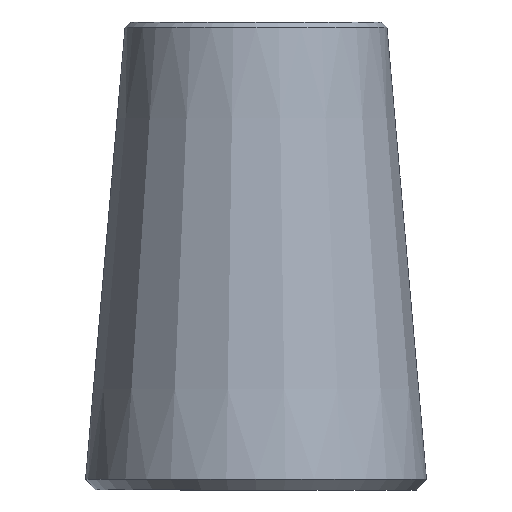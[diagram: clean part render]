
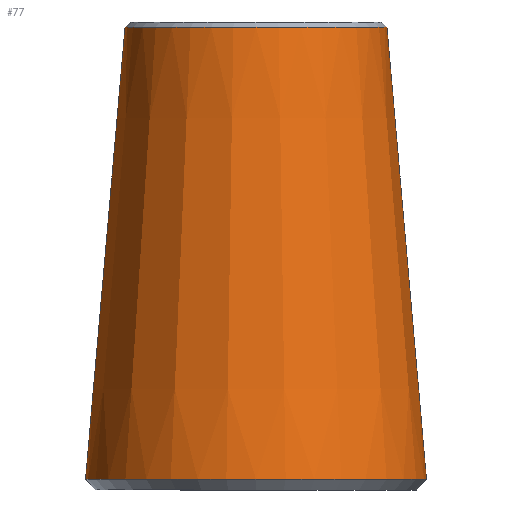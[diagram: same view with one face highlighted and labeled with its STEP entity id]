
A CAD part, left-side view. The second image highlights one B-rep face of the part: STEP entity #77.
In plain terms, the highlighted conical face has half-angle 5 degrees and reference radius 27.738 mm.
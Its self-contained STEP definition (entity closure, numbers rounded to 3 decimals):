
#20=FACE_BOUND('',#34,.T.);
#25=FACE_OUTER_BOUND('',#33,.T.);
#33=EDGE_LOOP('',(#63));
#34=EDGE_LOOP('',(#64));
#44=CIRCLE('',#87,31.326);
#45=CIRCLE('',#89,24.063);
#50=VERTEX_POINT('',#130);
#51=VERTEX_POINT('',#133);
#56=EDGE_CURVE('',#50,#50,#44,.T.);
#57=EDGE_CURVE('',#51,#51,#45,.T.);
#63=ORIENTED_EDGE('',*,*,#57,.F.);
#64=ORIENTED_EDGE('',*,*,#56,.F.);
#74=CONICAL_SURFACE('',#88,27.738,5.);
#77=ADVANCED_FACE('',(#25,#20),#74,.T.);
#87=AXIS2_PLACEMENT_3D('',#131,#104,#105);
#88=AXIS2_PLACEMENT_3D('',#132,#106,#107);
#89=AXIS2_PLACEMENT_3D('',#134,#108,#109);
#104=DIRECTION('center_axis',(0.,0.,
-1.));
#105=DIRECTION('ref_axis',(0.,1.,0.));
#106=DIRECTION('center_axis',(0.,0.,-1.));
#107=DIRECTION('ref_axis',(0.,-1.,0.));
#108=DIRECTION('center_axis',(0.,0.,1.));
#109=DIRECTION('ref_axis',(0.,1.,0.));
#130=CARTESIAN_POINT('',(0.,-31.326,1.992));
#131=CARTESIAN_POINT('Origin',(0.,0.,1.992));
#132=CARTESIAN_POINT('Origin',(0.,0.,43.));
#133=CARTESIAN_POINT('',(0.,-24.063,85.004));
#134=CARTESIAN_POINT('Origin',(0.,0.,
85.004));
